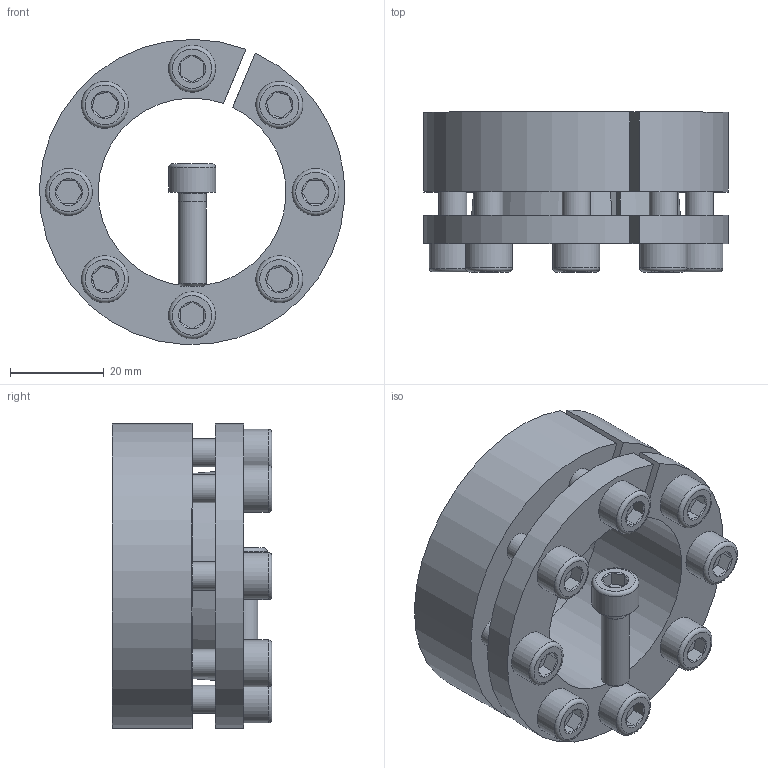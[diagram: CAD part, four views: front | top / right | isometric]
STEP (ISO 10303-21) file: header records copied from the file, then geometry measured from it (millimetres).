
FILE_DESCRIPTION( ( 'Unknown' ), '1' );
FILE_NAME( 'C:/Dokumente und Einstellungen/Sven/Desktop/homepage/cad - homepage/KBS13/KBS 13 - 40 x 65.stp', 'Unknown', ( 'Unknown' ), ( 'Unknown' ), 'XStep 1.0', 'Unknown', ' ' );
FILE_SCHEMA( ( 'automotive_design' ) );
Length unit declared in the file: millimetre
Products named in the file (3): Assem1; KBS 13 - 40 x 65; ISO EN DIN 4762 M6x20
Bounding box: 64.92 x 34 x 64.96 mm (x, y, z)
Volume: 94091.7 mm3; surface area: 46135.9 mm2
Topology: 11 solids, 11 shells, 281 faces, 573 edges, 350 vertices
Faces by surface type: plane 122, cylinder 74, cone 67, torus 18
Full cylindrical faces by diameter (mm): 5 x9, 6 x50, 10 x9
Entity records: 1774 total; most frequent: CARTESIAN_POINT 293, DIRECTION 272, ORIENTED_EDGE 194, AXIS2_PLACEMENT_3D 122, EDGE_LOOP 112, EDGE_CURVE 97, FACE_OUTER_BOUND 75, VERTEX_POINT 75
